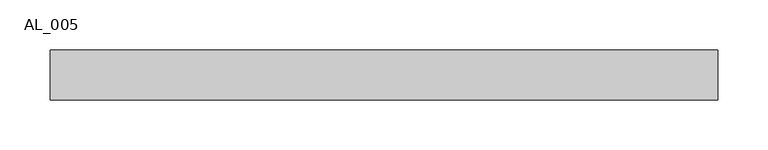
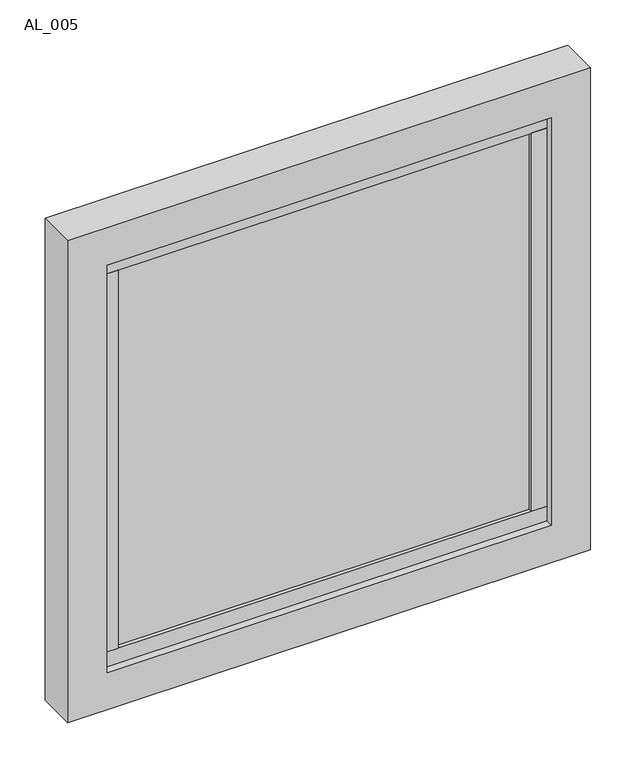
"""IFC4 building model written with IfcOpenShell, lengths in millimetres: plate geometry, TRP_CP_ARC_PF_RE : AL_005."""

from ifc_helpers import new_model, si_unit, frame, origin, place, context, project, spatial, polyline, outline, extrude, source, transform, mapped, element, save


def al_005_92a386ba(model_context):
    return source(origin(), model_context, "Body", "SweptSolid", [
        extrude(outline(polyline([(263.75, -10.0), (-263.75, -10.0), (-263.75, 10.0), (263.75, 10.0), (263.75, -10.0)])), frame((0.0, 0.0, 70.0), z_axis=(0.0, 0.0, 1.0), x_axis=(1.0, 0.0, 0.0)), (0.0, 0.0, 1.0), 509.970898),
        extrude(outline(polyline([(283.75, -15.0), (263.75, -15.0), (263.75, 15.0), (283.75, 15.0), (283.75, -15.0)])), frame((0.0, 0.0, 70.0), z_axis=(0.0, 0.0, 1.0), x_axis=(1.0, 0.0, 0.0)), (0.0, 0.0, 1.0), 509.970898),
        extrude(outline(polyline([(-263.75, -15.0), (-283.75, -15.0), (-283.75, 15.0), (-263.75, 15.0), (-263.75, -15.0)])), frame((0.0, 0.0, 70.0), z_axis=(0.0, 0.0, 1.0), x_axis=(1.0, 0.0, 0.0)), (0.0, 0.0, 1.0), 509.970898),
        extrude(outline(polyline([(283.75, -15.0), (-283.75, -15.0), (-283.75, 15.0), (283.75, 15.0), (283.75, -15.0)])), frame((0.0, 0.0, 50.0), z_axis=(0.0, 0.0, 1.0), x_axis=(1.0, 0.0, 0.0)), (0.0, 0.0, 1.0), 20.0),
        extrude(outline(polyline([(283.75, -15.0), (-283.75, -15.0), (-283.75, 15.0), (283.75, 15.0), (283.75, -15.0)])), frame((0.0, 0.0, 579.970898), z_axis=(0.0, 0.0, 1.0), x_axis=(1.0, 0.0, 0.0)), (0.0, 0.0, 1.0), 20.0),
        extrude(outline(polyline([(649.970898, 333.75), (649.970898, -333.75), (0.0, -333.75), (0.0, 333.75), (649.970898, 333.75)]), holes=[polyline([(50.0, 283.75), (50.0, -283.75), (599.970898, -283.75), (599.970898, 283.75), (50.0, 283.75)])]), frame((0.0, -25.0, 0.0), z_axis=(0.0, 1.0, 0.0), x_axis=(0.0, 0.0, 1.0)), (0.0, 0.0, 1.0), 50.0),
    ])


if __name__ == "__main__":
    model = new_model("IFC4")
    model_context = context("Model", 3, world=origin())
    ifc_project = project(units=[si_unit("LENGTHUNIT", "METRE", prefix="MILLI")], contexts=[model_context])
    site = spatial("IfcSite", under=ifc_project)
    building = spatial("IfcBuilding", under=site)
    placement = place(None, origin())
    al_005_shape = al_005_92a386ba(model_context)
    element("IfcPlate", 1, ObjectType="TRP_CP_ARC_PF_RE : AL_005", at=placement, inside=building, context=model_context, shape_type="MappedRepresentation", body=[
        mapped(al_005_shape, transform((0.0, 0.0, 0.0), x_axis=(1.0, 0.0, 0.0), y_axis=(0.0, 1.0, 0.0), z_axis=(0.0, 0.0, 1.0))),
    ])
    save(model, "model.ifc")
